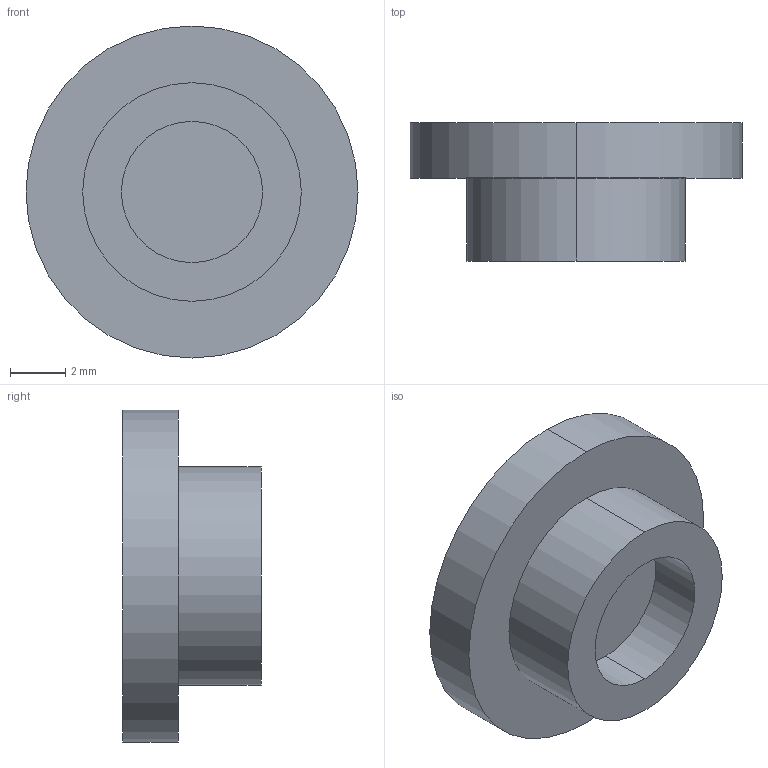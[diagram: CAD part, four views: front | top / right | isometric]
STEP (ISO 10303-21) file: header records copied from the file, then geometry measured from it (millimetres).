
FILE_DESCRIPTION (( 'STEP AP203' ), '1' );
FILE_NAME ('耜啣棠沺嘐隅.STEP', '2024-01-02T07:37:00', ( '' ), ( '' ), 'SwSTEP 2.0', 'SolidWorks 2014', '' );
FILE_SCHEMA (( 'CONFIG_CONTROL_DESIGN' ));
Length unit declared in the file: millimetre
Products named in the file (1): 耜啣棠沺嘐隅
Bounding box: 12 x 5 x 12 mm (x, y, z)
Volume: 332.4 mm3; surface area: 408.1 mm2
Topology: 1 solids, 1 shells, 10 faces, 18 edges, 12 vertices
Faces by surface type: cylinder 6, plane 4
Entity records: 331 total; most frequent: DIRECTION 52, CARTESIAN_POINT 41, ORIENTED_EDGE 36, AXIS2_PLACEMENT_3D 23, EDGE_CURVE 18, VERTEX_POINT 12, CIRCLE 12, EDGE_LOOP 12
